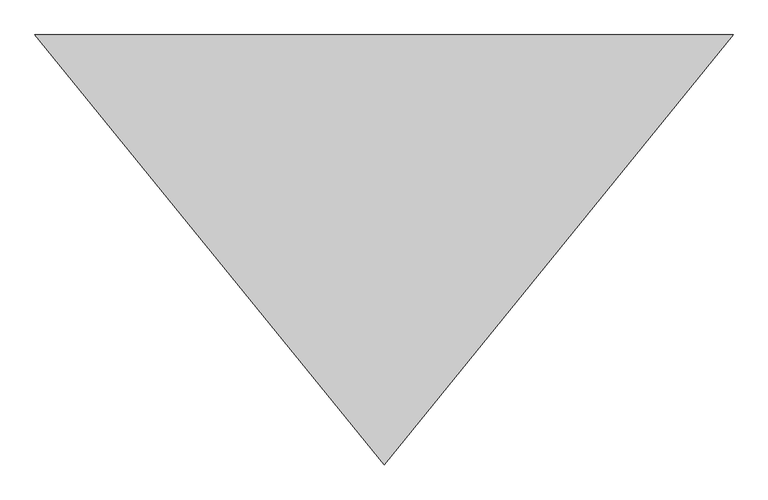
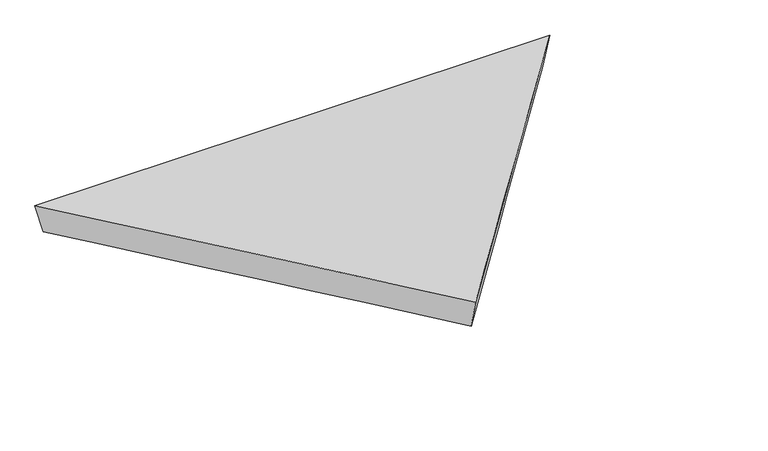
"""IFC4 building model written with IfcOpenShell, lengths in millimetres: plate geometry."""

from ifc_helpers import new_model, si_unit, frame, origin, place, context, project, spatial, source, transform, mapped, element, save
from ifc_brep_helpers import plane_surface, spline_surface, advanced_brep


def plate_f1f4cc90(model_context):
    return source(origin(), model_context, "Body", "AdvancedBrep", [
        advanced_brep(
        [(6096.0, 3719.6871899, 0.0), (7746.0409996, 5760.1564051, 0.0), (7798.6330296, 5767.0923017, 196.1535412), (6096.0, 3670.094397, 197.0553092), (4445.9590004, 5760.1564051, 0.0), (4393.3669704, 5767.0923017, 196.1535412)],
        [
            (0, 1),
            (1, 2),
            (2, 3),
            (3, 0),
            (1, 4),
            (4, 5),
            (5, 2),
            (4, 0),
            (3, 5),
        ],
        [
            spline_surface(1, 1, [[(6096.0, 3719.6871899, 0.0), (6096.0, 3670.094397, 197.0553092)], [(7746.0409996, 5760.1564051, 0.0), (7798.6330296, 5767.0923017, 196.1535412)]], [2, 2], [2, 2], [0.0, 1.0], [0.0, 1.0]),
            plane_surface(frame((6096.0, 5760.1564051, 0.0), z_axis=(0.0, 0.9993754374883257, -0.035337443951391), x_axis=(-1.0, 0.0, 0.0))),
            spline_surface(1, 1, [[(4445.9590004, 5760.1564051, 0.0), (4393.3669704, 5767.0923017, 196.1535412)], [(6096.0, 3719.6871899, 0.0), (6096.0, 3670.094397, 197.0553092)]], [2, 2], [2, 2], [0.0, 1.0], [0.0, 1.0]),
            plane_surface(frame((6096.0, 5068.0930001, 196.4541305), z_axis=(0.0, 0.0004300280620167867, 0.9999999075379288), x_axis=(0.6303299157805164, -0.7763273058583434, 0.0003338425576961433))),
            plane_surface(frame((6096.0, 5080.0, 0.0), z_axis=(0.0, 0.0, -1.0000000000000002), x_axis=(-0.6287912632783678, 0.777574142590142, 0.0))),
        ],
        [
            (0, [[1, 2, 3, 4]]),
            (1, [[5, 6, 7, -2]]),
            (2, [[8, -4, 9, -6]]),
            (3, [[-9, -3, -7]]),
            (4, [[-8, -5, -1]]),
        ],
    ),
    ])


if __name__ == "__main__":
    model = new_model("IFC4")
    model_context = context("Model", 3, world=origin())
    ifc_project = project(units=[si_unit("LENGTHUNIT", "METRE", prefix="MILLI")], contexts=[model_context])
    site = spatial("IfcSite", under=ifc_project)
    building = spatial("IfcBuilding", under=site)
    placement = place(None, origin())
    plate_shape = plate_f1f4cc90(model_context)
    element("IfcPlate", 1, ObjectType="tn_cpanel_patbase_triangle_flat_seamless_solid_01 : tn_cpanel_pattern_mullion_h8\"", at=placement, inside=building, context=model_context, shape_type="MappedRepresentation", body=[
        mapped(plate_shape, transform((0.0, 0.0, 0.0), x_axis=(1.0, 0.0, 0.0), y_axis=(0.0, 1.0, 0.0), z_axis=(0.0, 0.0, 1.0))),
    ])
    save(model, "model.ifc")
